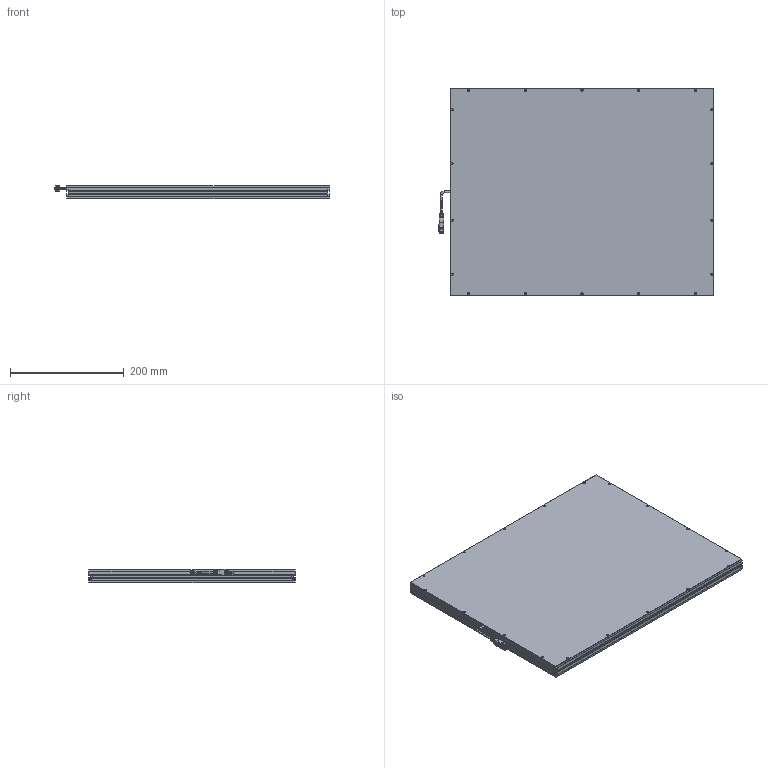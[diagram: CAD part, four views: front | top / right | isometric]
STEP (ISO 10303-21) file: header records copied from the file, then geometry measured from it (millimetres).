
FILE_DESCRIPTION (( 'STEP AP203' ), '1' );
FILE_NAME ('CRT-2FLD450350-¼òÒ×3DÍ¼.STEP', '2021-11-24T01:13:48', ( 'Admin' ), ( '' ), 'SwSTEP 2.0', 'SolidWorks 2018', '' );
FILE_SCHEMA (( 'CONFIG_CONTROL_DESIGN' ));
Length unit declared in the file: millimetre
Products named in the file (1): CRT-2FLD450350-潠眢3D芞
Bounding box: 484.95 x 364 x 23.5 mm (x, y, z)
Surface area: 562083 mm2 (no closed solid volume)
Topology: 0 solids, 10 shells, 333 faces, 1189 edges, 829 vertices
Faces by surface type: plane 156, cylinder 125, cone 47, bspline 4, torus 1
Entity records: 13156 total; most frequent: CARTESIAN_POINT 2918, DIRECTION 2173, ORIENTED_EDGE 1851, EDGE_CURVE 1189, VERTEX_POINT 829, VECTOR 741, LINE 741, AXIS2_PLACEMENT_3D 716
